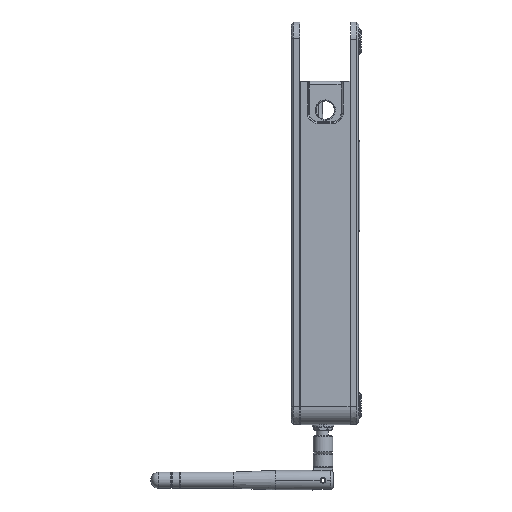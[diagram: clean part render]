
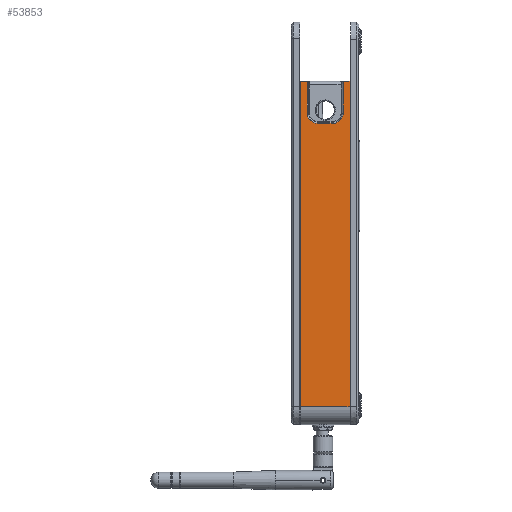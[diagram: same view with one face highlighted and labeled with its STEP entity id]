
A CAD part, left-side view. The second image highlights one B-rep face of the part: STEP entity #53853.
In plain terms, the highlighted planar face has unit normal (-1, 0, 0).
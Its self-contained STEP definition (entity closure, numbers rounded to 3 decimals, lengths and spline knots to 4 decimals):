
#11183=DIRECTION('',(0.,0.,1.));
#11184=VECTOR('',#11183,0.6047);
#11185=CARTESIAN_POINT('',(-3.4924,-0.1431,
5.9055));
#11186=LINE('',#11185,#11184);
#11187=CARTESIAN_POINT('',(-3.4924,-0.3332,
5.7155));
#11188=CARTESIAN_POINT('',(-3.4924,-0.3297,
5.7155));
#11189=CARTESIAN_POINT('',(-3.4924,-0.3227,
5.7157));
#11190=CARTESIAN_POINT('',(-3.4924,-0.3122,
5.7166));
#11191=CARTESIAN_POINT('',(-3.4924,-0.3016,
5.7181));
#11192=CARTESIAN_POINT('',(-3.4924,-0.2912,
5.7201));
#11193=CARTESIAN_POINT('',(-3.4924,-0.2808,
5.7228));
#11194=CARTESIAN_POINT('',(-3.4924,-0.2706,
5.726));
#11195=CARTESIAN_POINT('',(-3.4924,-0.2606,
5.7299));
#11196=CARTESIAN_POINT('',(-3.4924,-0.2508,
5.7342));
#11197=CARTESIAN_POINT('',(-3.4924,-0.2413,
5.7391));
#11198=CARTESIAN_POINT('',(-3.4924,-0.2321,
5.7446));
#11199=CARTESIAN_POINT('',(-3.4924,-0.2232,
5.7505));
#11200=CARTESIAN_POINT('',(-3.4924,-0.2147,
5.7569));
#11201=CARTESIAN_POINT('',(-3.4924,-0.2065,
5.7638));
#11202=CARTESIAN_POINT('',(-3.4924,-0.1987,
5.7711));
#11203=CARTESIAN_POINT('',(-3.4924,-0.1914,
5.7789));
#11204=CARTESIAN_POINT('',(-3.4924,-0.1845,
5.7871));
#11205=CARTESIAN_POINT('',(-3.4924,-0.1781,
5.7956));
#11206=CARTESIAN_POINT('',(-3.4924,-0.1721,
5.8045));
#11207=CARTESIAN_POINT('',(-3.4924,-0.1667,
5.8137));
#11208=CARTESIAN_POINT('',(-3.4924,-0.1618,
5.8232));
#11209=CARTESIAN_POINT('',(-3.4924,-0.1574,
5.833));
#11210=CARTESIAN_POINT('',(-3.4924,-0.1536,
5.843));
#11211=CARTESIAN_POINT('',(-3.4924,-0.1504,
5.8532));
#11212=CARTESIAN_POINT('',(-3.4924,-0.1477,
5.8635));
#11213=CARTESIAN_POINT('',(-3.4924,-0.1457,
5.874));
#11214=CARTESIAN_POINT('',(-3.4924,-0.1442,
5.8845));
#11215=CARTESIAN_POINT('',(-3.4924,-0.1433,
5.895));
#11216=CARTESIAN_POINT('',(-3.4924,-0.1431,
5.902));
#11217=CARTESIAN_POINT('',(-3.4924,-0.1431,
5.9055));
#11219=DIRECTION('',(0.,1.,0.));
#11220=VECTOR('',#11219,0.3014);
#11221=CARTESIAN_POINT('',(-3.4924,-0.6346,
5.7155));
#11222=LINE('',#11221,#11220);
#11223=CARTESIAN_POINT('',(-3.4924,-0.8246,
5.9055));
#11224=CARTESIAN_POINT('',(-3.4924,-0.8246,
5.902));
#11225=CARTESIAN_POINT('',(-3.4924,-0.8244,
5.895));
#11226=CARTESIAN_POINT('',(-3.4924,-0.8236,
5.8845));
#11227=CARTESIAN_POINT('',(-3.4924,-0.8221,
5.874));
#11228=CARTESIAN_POINT('',(-3.4924,-0.82,
5.8635));
#11229=CARTESIAN_POINT('',(-3.4924,-0.8174,
5.8531));
#11230=CARTESIAN_POINT('',(-3.4924,-0.8141,
5.8429));
#11231=CARTESIAN_POINT('',(-3.4924,-0.8103,
5.8329));
#11232=CARTESIAN_POINT('',(-3.4924,-0.8059,
5.8231));
#11233=CARTESIAN_POINT('',(-3.4924,-0.801,
5.8136));
#11234=CARTESIAN_POINT('',(-3.4924,-0.7956,
5.8044));
#11235=CARTESIAN_POINT('',(-3.4924,-0.7897,
5.7955));
#11236=CARTESIAN_POINT('',(-3.4924,-0.7832,
5.787));
#11237=CARTESIAN_POINT('',(-3.4924,-0.7763,
5.7788));
#11238=CARTESIAN_POINT('',(-3.4924,-0.769,
5.7711));
#11239=CARTESIAN_POINT('',(-3.4924,-0.7612,
5.7637));
#11240=CARTESIAN_POINT('',(-3.4924,-0.753,
5.7568));
#11241=CARTESIAN_POINT('',(-3.4924,-0.7445,
5.7504));
#11242=CARTESIAN_POINT('',(-3.4924,-0.7356,
5.7445));
#11243=CARTESIAN_POINT('',(-3.4924,-0.7264,
5.7391));
#11244=CARTESIAN_POINT('',(-3.4924,-0.7169,
5.7342));
#11245=CARTESIAN_POINT('',(-3.4924,-0.7071,
5.7298));
#11246=CARTESIAN_POINT('',(-3.4924,-0.6971,
5.726));
#11247=CARTESIAN_POINT('',(-3.4924,-0.6869,
5.7228));
#11248=CARTESIAN_POINT('',(-3.4924,-0.6766,
5.7201));
#11249=CARTESIAN_POINT('',(-3.4924,-0.6661,
5.7181));
#11250=CARTESIAN_POINT('',(-3.4924,-0.6556,
5.7166));
#11251=CARTESIAN_POINT('',(-3.4924,-0.6451,
5.7157));
#11252=CARTESIAN_POINT('',(-3.4924,-0.6381,
5.7155));
#11253=CARTESIAN_POINT('',(-3.4924,-0.6346,
5.7155));
#11255=DIRECTION('',(0.,0.,-1.));
#11256=VECTOR('',#11255,0.6047);
#11257=CARTESIAN_POINT('',(-3.4924,-0.8249,
6.5102));
#11258=LINE('',#11257,#11256);
#11259=DIRECTION('',(0.,0.,1.));
#11260=VECTOR('',#11259,6.1756);
#11261=CARTESIAN_POINT('',(-3.4924,-0.9546,
0.3346));
#11262=LINE('',#11261,#11260);
#11263=DIRECTION('',(0.,-1.,0.));
#11264=VECTOR('',#11263,0.9446);
#11265=CARTESIAN_POINT('',(-3.4924,-0.01,0.3346));
#11266=LINE('',#11265,#11264);
#11267=DIRECTION('',(0.,0.,1.));
#11268=VECTOR('',#11267,6.1756);
#11269=CARTESIAN_POINT('',(-3.4924,-0.01,0.3346));
#11270=LINE('',#11269,#11268);
#11295=CARTESIAN_POINT('',(-3.4924,-0.1429,
6.5102));
#11305=DIRECTION('',(0.,1.,0.));
#11306=VECTOR('',#11305,0.1329);
#11307=CARTESIAN_POINT('',(-3.4924,-0.1429,
6.5102));
#11308=LINE('',#11307,#11306);
#16181=DIRECTION('',(0.,1.,0.));
#16182=VECTOR('',#16181,0.1296);
#16183=CARTESIAN_POINT('',(-3.4924,-0.9546,
6.5102));
#16184=LINE('',#16183,#16182);
#16193=CARTESIAN_POINT('',(-3.4924,-0.8249,
6.5102));
#32770=CARTESIAN_POINT('',(-3.4924,-0.01,0.3346));
#32771=CARTESIAN_POINT('',(-3.4924,-0.9546,
0.3346));
#32772=VERTEX_POINT('',#32770);
#32773=VERTEX_POINT('',#32771);
#33010=VERTEX_POINT('',#11295);
#33014=CARTESIAN_POINT('',(-3.4924,-0.1431,
5.9055));
#33015=VERTEX_POINT('',#33014);
#33016=VERTEX_POINT('',#11187);
#33018=CARTESIAN_POINT('',(-3.4924,-0.6346,
5.7155));
#33019=VERTEX_POINT('',#33018);
#33022=VERTEX_POINT('',#11223);
#33025=VERTEX_POINT('',#16193);
#33054=CARTESIAN_POINT('',(-3.4924,-0.01,6.5102));
#33056=VERTEX_POINT('',#33054);
#33062=CARTESIAN_POINT('',(-3.4924,-0.9546,
6.5102));
#33064=VERTEX_POINT('',#33062);
#53828=CARTESIAN_POINT('',(-3.4924,0.,0.));
#53829=DIRECTION('',(-1.,0.,0.));
#53830=DIRECTION('',(0.,0.,1.));
#53831=AXIS2_PLACEMENT_3D('',#53828,#53829,#53830);
#53832=PLANE('',#53831);
#53834=ORIENTED_EDGE('',*,*,#53833,.F.);
#53836=ORIENTED_EDGE('',*,*,#53835,.F.);
#53838=ORIENTED_EDGE('',*,*,#53837,.F.);
#53840=ORIENTED_EDGE('',*,*,#53839,.F.);
#53842=ORIENTED_EDGE('',*,*,#53841,.F.);
#53844=ORIENTED_EDGE('',*,*,#53843,.F.);
#53846=ORIENTED_EDGE('',*,*,#53845,.F.);
#53847=ORIENTED_EDGE('',*,*,#53820,.F.);
#53848=ORIENTED_EDGE('',*,*,#53689,.T.);
#53850=ORIENTED_EDGE('',*,*,#53849,.F.);
#53851=EDGE_LOOP('',(#53834,#53836,#53838,#53840,#53842,#53844,#53846,#53847,
#53848,#53850));
#53852=FACE_OUTER_BOUND('',#53851,.F.);
#53853=ADVANCED_FACE('',(#53852),#53832,.T.);
#11218=B_SPLINE_CURVE_WITH_KNOTS('',3,(#11187,#11188,#11189,#11190,#11191,
#11192,#11193,#11194,#11195,#11196,#11197,#11198,#11199,#11200,#11201,#11202,
#11203,#11204,#11205,#11206,#11207,#11208,#11209,#11210,#11211,#11212,#11213,
#11214,#11215,#11216,#11217),.UNSPECIFIED.,.F.,.F.,(4,1,1,1,1,1,1,1,1,1,1,1,1,1,
1,1,1,1,1,1,1,1,1,1,1,1,1,1,4),(0.,0.0357,0.0714,
0.1071,0.1429,0.1786,0.2143,0.25,
0.2857,0.3214,0.3571,0.3929,
0.4286,0.4643,0.5,0.5357,0.5714,
0.6071,0.6429,0.6786,0.7143,0.75,
0.7857,0.8214,0.8571,0.8929,
0.9286,0.9643,1.),.UNSPECIFIED.);
#11254=B_SPLINE_CURVE_WITH_KNOTS('',3,(#11223,#11224,#11225,#11226,#11227,
#11228,#11229,#11230,#11231,#11232,#11233,#11234,#11235,#11236,#11237,#11238,
#11239,#11240,#11241,#11242,#11243,#11244,#11245,#11246,#11247,#11248,#11249,
#11250,#11251,#11252,#11253),.UNSPECIFIED.,.F.,.F.,(4,1,1,1,1,1,1,1,1,1,1,1,1,1,
1,1,1,1,1,1,1,1,1,1,1,1,1,1,4),(0.,0.0357,0.0714,
0.1071,0.1429,0.1786,0.2143,0.25,
0.2857,0.3214,0.3571,0.3929,
0.4286,0.4643,0.5,0.5357,0.5714,
0.6071,0.6429,0.6786,0.7143,0.75,
0.7857,0.8214,0.8571,0.8929,
0.9286,0.9643,1.),.UNSPECIFIED.);
#53689=EDGE_CURVE('',#32772,#33056,#11270,.T.);
#53820=EDGE_CURVE('',#32772,#32773,#11266,.T.);
#53833=EDGE_CURVE('',#33015,#33010,#11186,.T.);
#53835=EDGE_CURVE('',#33016,#33015,#11218,.T.);
#53837=EDGE_CURVE('',#33019,#33016,#11222,.T.);
#53839=EDGE_CURVE('',#33022,#33019,#11254,.T.);
#53841=EDGE_CURVE('',#33025,#33022,#11258,.T.);
#53843=EDGE_CURVE('',#33064,#33025,#16184,.T.);
#53845=EDGE_CURVE('',#32773,#33064,#11262,.T.);
#53849=EDGE_CURVE('',#33010,#33056,#11308,.T.);
